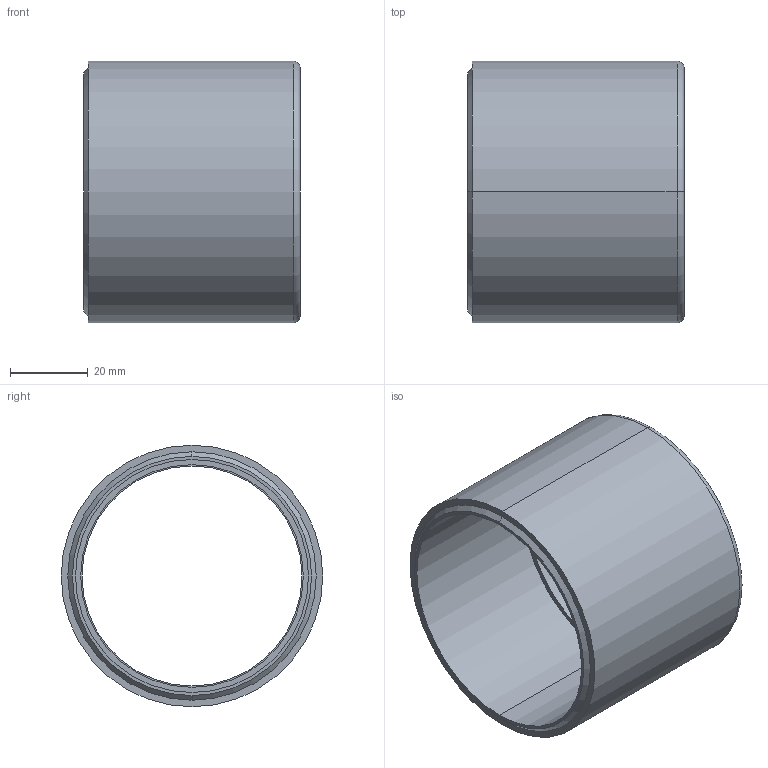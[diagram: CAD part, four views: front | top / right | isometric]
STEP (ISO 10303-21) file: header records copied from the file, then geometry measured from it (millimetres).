
FILE_DESCRIPTION (( 'STEP AP214' ), '1' );
FILE_NAME ('CR-INFV-15-16.STEP', '2020-12-10T17:00:46', ( '' ), ( '' ), 'SwSTEP 2.0', 'SolidWorks 2019', '' );
FILE_SCHEMA (( 'AUTOMOTIVE_DESIGN' ));
Length unit declared in the file: inch
Products named in the file (1): CR-INFV-15-16
Bounding box: 55.92 x 67.46 x 67.46 mm (x, y, z)
Volume: 45505.6 mm3; surface area: 24007.7 mm2
Topology: 1 solids, 1 shells, 20 faces, 40 edges, 26 vertices
Faces by surface type: cylinder 10, plane 6, cone 2, torus 2
Entity records: 840 total; most frequent: DIRECTION 110, CARTESIAN_POINT 87, ORIENTED_EDGE 80, AXIS2_PLACEMENT_3D 49, EDGE_CURVE 40, CIRCLE 28, EDGE_LOOP 26, VERTEX_POINT 26
